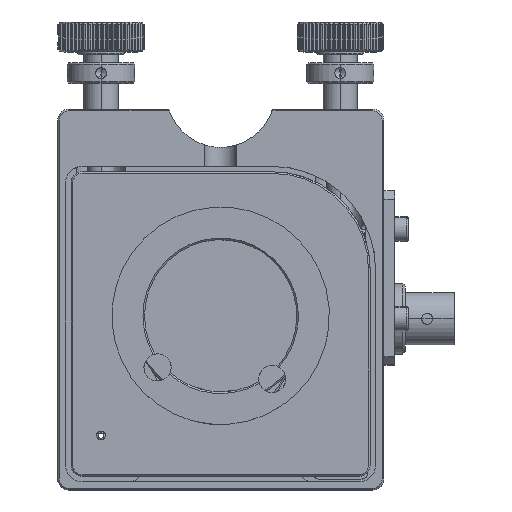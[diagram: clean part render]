
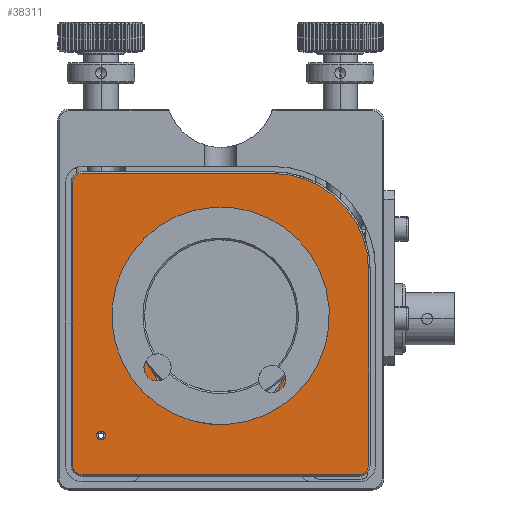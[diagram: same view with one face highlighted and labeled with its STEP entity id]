
A CAD part, top view. The second image highlights one B-rep face of the part: STEP entity #38311.
In plain terms, the highlighted planar face has unit normal (0, 0, 1).
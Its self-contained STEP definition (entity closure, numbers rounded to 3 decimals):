
#255 = DIRECTION ( 'NONE',  ( -1., 0., 0. ) ) ;
#420 = EDGE_CURVE ( 'NONE', #19523, #5266, #17327, .T. ) ;
#442 = VERTEX_POINT ( 'NONE', #33066 ) ;
#476 = CIRCLE ( 'NONE', #19751, 17.7 ) ;
#1137 = ORIENTED_EDGE ( 'NONE', *, *, #8281, .T. ) ;
#1255 = VERTEX_POINT ( 'NONE', #7383 ) ;
#2116 = CARTESIAN_POINT ( 'NONE',  ( -12.855, -7.411, 8. ) ) ;
#2835 = DIRECTION ( 'NONE',  ( 0., 0., 1. ) ) ;
#3150 = CIRCLE ( 'NONE', #8358, 15.55 ) ;
#3716 = EDGE_CURVE ( 'NONE', #33970, #4915, #8567, .T. ) ;
#3839 = DIRECTION ( 'NONE',  ( -1., 0., 0. ) ) ;
#4778 = EDGE_CURVE ( 'NONE', #25505, #35387, #13316, .T. ) ;
#4792 = CARTESIAN_POINT ( 'NONE',  ( 0., 1.5, 8. ) ) ;
#4915 = VERTEX_POINT ( 'NONE', #9640 ) ;
#4926 = DIRECTION ( 'NONE',  ( 0., 0., -1. ) ) ;
#4947 = ORIENTED_EDGE ( 'NONE', *, *, #37168, .T. ) ;
#4995 = ORIENTED_EDGE ( 'NONE', *, *, #13392, .T. ) ;
#5146 = AXIS2_PLACEMENT_3D ( 'NONE', #33892, #9329, #255 ) ;
#5264 = VERTEX_POINT ( 'NONE', #7497 ) ;
#5266 = VERTEX_POINT ( 'NONE', #22188 ) ;
#5521 = CARTESIAN_POINT ( 'NONE',  ( -22.8, -20.5, 8. ) ) ;
#6080 = AXIS2_PLACEMENT_3D ( 'NONE', #23313, #38251, #14400 ) ;
#6141 = CARTESIAN_POINT ( 'NONE',  ( 0., 27.7, 8. ) ) ;
#6796 = CARTESIAN_POINT ( 'NONE',  ( -22., -20.5, 8. ) ) ;
#6988 = CARTESIAN_POINT ( 'NONE',  ( -14.498, -7.847, 8. ) ) ;
#7383 = CARTESIAN_POINT ( 'NONE',  ( 27.2, 10., 8. ) ) ;
#7497 = CARTESIAN_POINT ( 'NONE',  ( -25.5, -27.7, 8. ) ) ;
#7561 = EDGE_CURVE ( 'NONE', #15092, #14435, #3150, .T. ) ;
#7659 = CIRCLE ( 'NONE', #17980, 0.8 ) ;
#7858 = DIRECTION ( 'NONE',  ( -1., 0., 0. ) ) ;
#8240 = EDGE_CURVE ( 'NONE', #35387, #10770, #34687, .T. ) ;
#8281 = EDGE_CURVE ( 'NONE', #10770, #15092, #11755, .T. ) ;
#8358 = AXIS2_PLACEMENT_3D ( 'NONE', #13479, #38651, #20912 ) ;
#8454 = CARTESIAN_POINT ( 'NONE',  ( 13.07, -6.925, 8. ) ) ;
#8567 = CIRCLE ( 'NONE', #35114, 1.7 ) ;
#8630 = CIRCLE ( 'NONE', #20269, 1.7 ) ;
#9329 = DIRECTION ( 'NONE',  ( 0., 0., -1. ) ) ;
#9640 = CARTESIAN_POINT ( 'NONE',  ( -27.2, 26., 8. ) ) ;
#9802 = CIRCLE ( 'NONE', #27084, 1.7 ) ;
#10000 = DIRECTION ( 'NONE',  ( 0., 0., -1. ) ) ;
#10544 = VECTOR ( 'NONE', #25443, 1000. ) ;
#10770 = VERTEX_POINT ( 'NONE', #32321 ) ;
#11134 = EDGE_CURVE ( 'NONE', #20839, #33970, #23078, .T. ) ;
#11351 = CARTESIAN_POINT ( 'NONE',  ( -25.5, 27.7, 8. ) ) ;
#11755 = CIRCLE ( 'NONE', #6080, 15.55 ) ;
#12083 = CARTESIAN_POINT ( 'NONE',  ( -27.2, 0., 8. ) ) ;
#13034 = ORIENTED_EDGE ( 'NONE', *, *, #17157, .T. ) ;
#13316 = CIRCLE ( 'NONE', #16988, 1.7 ) ;
#13392 = EDGE_CURVE ( 'NONE', #5264, #19523, #14370, .T. ) ;
#13409 = ORIENTED_EDGE ( 'NONE', *, *, #28418, .T. ) ;
#13479 = CARTESIAN_POINT ( 'NONE',  ( 0., 1.5, 8. ) ) ;
#13745 = VERTEX_POINT ( 'NONE', #37825 ) ;
#13902 = LINE ( 'NONE', #26128, #10544 ) ;
#13981 = EDGE_LOOP ( 'NONE', ( #27050, #25644, #33967, #13409, #28939, #4995, #17009, #4947 ) ) ;
#14370 = LINE ( 'NONE', #30948, #31106 ) ;
#14400 = DIRECTION ( 'NONE',  ( -1., 0., 0. ) ) ;
#14435 = VERTEX_POINT ( 'NONE', #8454 ) ;
#14469 = VERTEX_POINT ( 'NONE', #5521 ) ;
#14636 = CARTESIAN_POINT ( 'NONE',  ( 9.5, 10., 8. ) ) ;
#14657 = VERTEX_POINT ( 'NONE', #36708 ) ;
#14761 = DIRECTION ( 'NONE',  ( 0., 0., 1. ) ) ;
#15009 = PLANE ( 'NONE',  #33075 ) ;
#15092 = VERTEX_POINT ( 'NONE', #30384 ) ;
#16530 = EDGE_LOOP ( 'NONE', ( #28576, #38401, #37471, #38126, #1137, #24868 ) ) ;
#16988 = AXIS2_PLACEMENT_3D ( 'NONE', #6988, #34076, #34594 ) ;
#17009 = ORIENTED_EDGE ( 'NONE', *, *, #420, .T. ) ;
#17157 = EDGE_CURVE ( 'NONE', #14469, #442, #7659, .T. ) ;
#17327 = CIRCLE ( 'NONE', #31190, 1.7 ) ;
#17911 = CARTESIAN_POINT ( 'NONE',  ( 0., 0., 8. ) ) ;
#17980 = AXIS2_PLACEMENT_3D ( 'NONE', #6796, #37573, #3839 ) ;
#18048 = AXIS2_PLACEMENT_3D ( 'NONE', #21487, #10000, #24291 ) ;
#18567 = FACE_BOUND ( 'NONE', #16530, .T. ) ;
#19523 = VERTEX_POINT ( 'NONE', #28065 ) ;
#19708 = DIRECTION ( 'NONE',  ( 0., 0., 1. ) ) ;
#19751 = AXIS2_PLACEMENT_3D ( 'NONE', #14636, #14761, #36068 ) ;
#20269 = AXIS2_PLACEMENT_3D ( 'NONE', #21425, #27603, #34612 ) ;
#20476 = CARTESIAN_POINT ( 'NONE',  ( -13.07, -6.925, 8. ) ) ;
#20491 = FACE_OUTER_BOUND ( 'NONE', #13981, .T. ) ;
#20811 = ORIENTED_EDGE ( 'NONE', *, *, #28163, .T. ) ;
#20839 = VERTEX_POINT ( 'NONE', #22173 ) ;
#20912 = DIRECTION ( 'NONE',  ( -1., 0., 0. ) ) ;
#21425 = CARTESIAN_POINT ( 'NONE',  ( -25.5, -26., 8. ) ) ;
#21487 = CARTESIAN_POINT ( 'NONE',  ( -22., -20.5, 8. ) ) ;
#21605 = DIRECTION ( 'NONE',  ( 1., 0., 0. ) ) ;
#22139 = VECTOR ( 'NONE', #39221, 1000. ) ;
#22173 = CARTESIAN_POINT ( 'NONE',  ( 9.5, 27.7, 8. ) ) ;
#22188 = CARTESIAN_POINT ( 'NONE',  ( 27.2, -26., 8. ) ) ;
#22934 = CIRCLE ( 'NONE', #5146, 13.3 ) ;
#23078 = LINE ( 'NONE', #6141, #22139 ) ;
#23313 = CARTESIAN_POINT ( 'NONE',  ( 0., 1.5, 8. ) ) ;
#23452 = EDGE_CURVE ( 'NONE', #13745, #25505, #22934, .T. ) ;
#23592 = DIRECTION ( 'NONE',  ( -1., 0., 0. ) ) ;
#23938 = DIRECTION ( 'NONE',  ( -1., 0., 0. ) ) ;
#23960 = AXIS2_PLACEMENT_3D ( 'NONE', #4792, #4926, #7858 ) ;
#24071 = CARTESIAN_POINT ( 'NONE',  ( 14.498, -7.847, 8. ) ) ;
#24291 = DIRECTION ( 'NONE',  ( -1., 0., 0. ) ) ;
#24868 = ORIENTED_EDGE ( 'NONE', *, *, #7561, .T. ) ;
#25443 = DIRECTION ( 'NONE',  ( 0., 1., 0. ) ) ;
#25505 = VERTEX_POINT ( 'NONE', #2116 ) ;
#25644 = ORIENTED_EDGE ( 'NONE', *, *, #11134, .T. ) ;
#26128 = CARTESIAN_POINT ( 'NONE',  ( 27.2, 0., 8. ) ) ;
#26824 = CARTESIAN_POINT ( 'NONE',  ( 25.5, -26., 8. ) ) ;
#26957 = DIRECTION ( 'NONE',  ( 0., 0., 1. ) ) ;
#27050 = ORIENTED_EDGE ( 'NONE', *, *, #37325, .T. ) ;
#27084 = AXIS2_PLACEMENT_3D ( 'NONE', #24071, #2835, #27171 ) ;
#27171 = DIRECTION ( 'NONE',  ( -1., 0., 0. ) ) ;
#27320 = DIRECTION ( 'NONE',  ( 0., -1., 0. ) ) ;
#27603 = DIRECTION ( 'NONE',  ( 0., 0., 1. ) ) ;
#27690 = FACE_BOUND ( 'NONE', #36216, .T. ) ;
#28065 = CARTESIAN_POINT ( 'NONE',  ( 25.5, -27.7, 8. ) ) ;
#28163 = EDGE_CURVE ( 'NONE', #442, #14469, #29545, .T. ) ;
#28418 = EDGE_CURVE ( 'NONE', #4915, #14657, #28594, .T. ) ;
#28576 = ORIENTED_EDGE ( 'NONE', *, *, #31370, .T. ) ;
#28594 = LINE ( 'NONE', #12083, #32865 ) ;
#28939 = ORIENTED_EDGE ( 'NONE', *, *, #36960, .T. ) ;
#29545 = CIRCLE ( 'NONE', #18048, 0.8 ) ;
#30384 = CARTESIAN_POINT ( 'NONE',  ( 15.55, 1.5, 8. ) ) ;
#30948 = CARTESIAN_POINT ( 'NONE',  ( 0., -27.7, 8. ) ) ;
#31106 = VECTOR ( 'NONE', #21605, 1000. ) ;
#31190 = AXIS2_PLACEMENT_3D ( 'NONE', #26824, #26957, #23592 ) ;
#31370 = EDGE_CURVE ( 'NONE', #14435, #13745, #9802, .T. ) ;
#32321 = CARTESIAN_POINT ( 'NONE',  ( -15.55, 1.5, 8. ) ) ;
#32865 = VECTOR ( 'NONE', #27320, 1000. ) ;
#33066 = CARTESIAN_POINT ( 'NONE',  ( -21.2, -20.5, 8. ) ) ;
#33075 = AXIS2_PLACEMENT_3D ( 'NONE', #17911, #33530, #23938 ) ;
#33530 = DIRECTION ( 'NONE',  ( 0., 0., -1. ) ) ;
#33892 = CARTESIAN_POINT ( 'NONE',  ( 0., -4., 8. ) ) ;
#33967 = ORIENTED_EDGE ( 'NONE', *, *, #3716, .T. ) ;
#33970 = VERTEX_POINT ( 'NONE', #11351 ) ;
#34076 = DIRECTION ( 'NONE',  ( 0., 0., 1. ) ) ;
#34594 = DIRECTION ( 'NONE',  ( -1., 0., 0. ) ) ;
#34612 = DIRECTION ( 'NONE',  ( -1., 0., 0. ) ) ;
#34687 = CIRCLE ( 'NONE', #23960, 15.55 ) ;
#35114 = AXIS2_PLACEMENT_3D ( 'NONE', #35159, #19708, #35290 ) ;
#35159 = CARTESIAN_POINT ( 'NONE',  ( -25.5, 26., 8. ) ) ;
#35290 = DIRECTION ( 'NONE',  ( -1., 0., 0. ) ) ;
#35387 = VERTEX_POINT ( 'NONE', #20476 ) ;
#36068 = DIRECTION ( 'NONE',  ( -1., 0., 0. ) ) ;
#36216 = EDGE_LOOP ( 'NONE', ( #13034, #20811 ) ) ;
#36708 = CARTESIAN_POINT ( 'NONE',  ( -27.2, -26., 8. ) ) ;
#36960 = EDGE_CURVE ( 'NONE', #14657, #5264, #8630, .T. ) ;
#37168 = EDGE_CURVE ( 'NONE', #5266, #1255, #13902, .T. ) ;
#37325 = EDGE_CURVE ( 'NONE', #1255, #20839, #476, .T. ) ;
#37471 = ORIENTED_EDGE ( 'NONE', *, *, #4778, .T. ) ;
#37573 = DIRECTION ( 'NONE',  ( 0., 0., -1. ) ) ;
#37825 = CARTESIAN_POINT ( 'NONE',  ( 12.855, -7.411, 8. ) ) ;
#38126 = ORIENTED_EDGE ( 'NONE', *, *, #8240, .T. ) ;
#38251 = DIRECTION ( 'NONE',  ( 0., 0., -1. ) ) ;
#38311 = ADVANCED_FACE ( 'NONE', ( #27690, #18567, #20491 ), #15009, .F. ) ;
#38401 = ORIENTED_EDGE ( 'NONE', *, *, #23452, .T. ) ;
#38651 = DIRECTION ( 'NONE',  ( 0., 0., -1. ) ) ;
#39221 = DIRECTION ( 'NONE',  ( -1., 0., 0. ) ) ;
